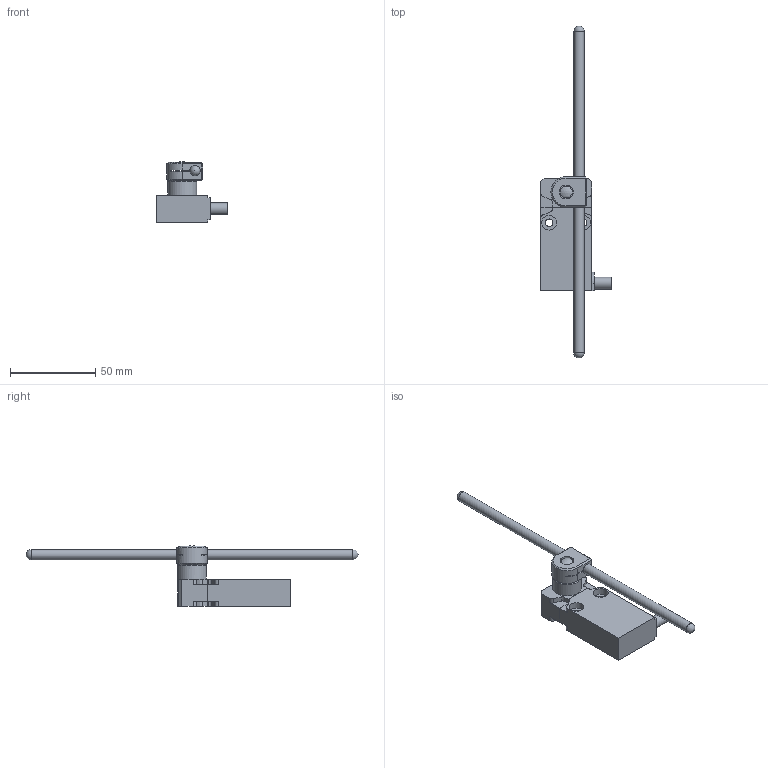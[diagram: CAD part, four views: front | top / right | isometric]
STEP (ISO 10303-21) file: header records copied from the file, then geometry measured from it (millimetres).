
FILE_DESCRIPTION(/* description */ (''),/* implementation_level */ '2;1');
FILE_NAME(/* name */ 'C:\Users\servizio.tecnico\Desktop\CADENAS\3D\EP1_STP\STP_EP1_G73U.stp',/* time_stamp */ '2017-09-01T08:47:19+02:00',/* author */ ('servizio.tecnico'),/* organization */ (''),/* preprocessor_version */ 'ST-DEVELOPER v16.1',/* originating_system */ 'Autodesk Inventor 2016',/* authorisation */ '');
FILE_SCHEMA (('AUTOMOTIVE_DESIGN { 1 0 10303 214 3 1 1 }'));
Length unit declared in the file: millimetre
Products named in the file (3): Product; EP1G73; BASE ASSI 
Assembly tree (2 placements, depth 3):
  BASE ASSI 
    EP1G73
      Product
Bounding box: 41.5 x 195 x 35.58 mm (x, y, z)
Volume: 39882.9 mm3; surface area: 15294.8 mm2
Topology: 4 solids, 4 shells, 124 faces, 315 edges, 206 vertices
Faces by surface type: plane 82, cylinder 36, sphere 3, cone 2, torus 1
Full cylindrical faces by diameter (mm): 4.4 x2, 6 x1, 7 x2, 8.2 x1, 8.7 x4, 11 x1, 17 x1
Entity records: 3724 total; most frequent: DIRECTION 632, CARTESIAN_POINT 623, ORIENTED_EDGE 588, EDGE_CURVE 294, LINE 214, VECTOR 214, AXIS2_PLACEMENT_3D 209, VERTEX_POINT 200
